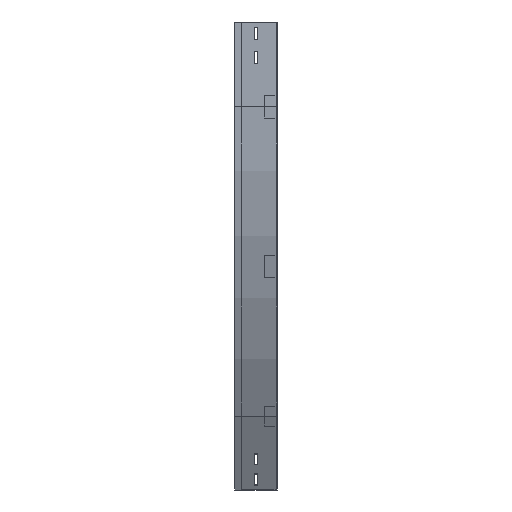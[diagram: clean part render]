
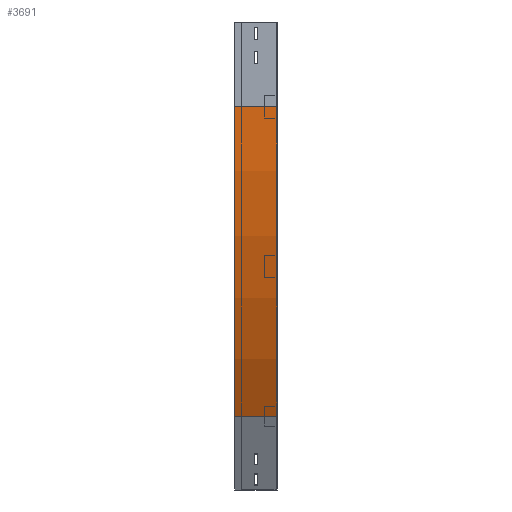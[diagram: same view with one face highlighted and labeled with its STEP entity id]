
A CAD part, left-side view. The second image highlights one B-rep face of the part: STEP entity #3691.
In plain terms, the highlighted cylindrical face has radius 1100 mm (diameter 2200 mm), a partial arc.
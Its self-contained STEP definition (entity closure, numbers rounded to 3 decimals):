
#99 = ORIENTED_EDGE ( 'NONE', *, *, #612, .T. ) ;
#209 = DIRECTION ( 'NONE',  ( -1., 0., 0. ) ) ;
#288 = DIRECTION ( 'NONE',  ( 0., -1., 0. ) ) ;
#316 = DIRECTION ( 'NONE',  ( 0., -1., 0. ) ) ;
#446 = CARTESIAN_POINT ( 'NONE',  ( 147.372, 75., -700. ) ) ;
#484 = DIRECTION ( 'NONE',  ( 0., -1., 0. ) ) ;
#487 = DIRECTION ( 'NONE',  ( 0., -1., 0. ) ) ;
#562 = EDGE_CURVE ( 'NONE', #3136, #2869, #2020, .T. ) ;
#570 = CARTESIAN_POINT ( 'NONE',  ( 0., 0., -150. ) ) ;
#612 = EDGE_CURVE ( 'NONE', #3474, #2869, #3356, .T. ) ;
#667 = EDGE_LOOP ( 'NONE', ( #1631, #2430, #815, #99 ) ) ;
#815 = ORIENTED_EDGE ( 'NONE', *, *, #1408, .T. ) ;
#1390 = LINE ( 'NONE', #3781, #3195 ) ;
#1408 = EDGE_CURVE ( 'NONE', #3730, #3474, #2522, .T. ) ;
#1466 = AXIS2_PLACEMENT_3D ( 'NONE', #2239, #484, #209 ) ;
#1486 = DIRECTION ( 'NONE',  ( 0., 0., -1. ) ) ;
#1523 = VECTOR ( 'NONE', #3313, 1000. ) ;
#1631 = ORIENTED_EDGE ( 'NONE', *, *, #562, .F. ) ;
#1777 = CYLINDRICAL_SURFACE ( 'NONE', #2963, 1100. ) ;
#2020 = CIRCLE ( 'NONE', #2400, 1100. ) ;
#2047 = EDGE_CURVE ( 'NONE', #3730, #3136, #1390, .T. ) ;
#2102 = FACE_OUTER_BOUND ( 'NONE', #667, .T. ) ;
#2131 = CARTESIAN_POINT ( 'NONE',  ( 147.372, 0., -700. ) ) ;
#2239 = CARTESIAN_POINT ( 'NONE',  ( 1100., 75., -150. ) ) ;
#2400 = AXIS2_PLACEMENT_3D ( 'NONE', #2637, #288, #2597 ) ;
#2430 = ORIENTED_EDGE ( 'NONE', *, *, #2047, .F. ) ;
#2522 = CIRCLE ( 'NONE', #1466, 1100. ) ;
#2597 = DIRECTION ( 'NONE',  ( -1., 0., 0. ) ) ;
#2637 = CARTESIAN_POINT ( 'NONE',  ( 1100., 0., -150. ) ) ;
#2747 = CARTESIAN_POINT ( 'NONE',  ( 147.372, 0., -700. ) ) ;
#2869 = VERTEX_POINT ( 'NONE', #2747 ) ;
#2963 = AXIS2_PLACEMENT_3D ( 'NONE', #2981, #316, #1486 ) ;
#2981 = CARTESIAN_POINT ( 'NONE',  ( 1100., 0., -150. ) ) ;
#3136 = VERTEX_POINT ( 'NONE', #570 ) ;
#3195 = VECTOR ( 'NONE', #487, 1000. ) ;
#3313 = DIRECTION ( 'NONE',  ( 0., -1., 0. ) ) ;
#3325 = CARTESIAN_POINT ( 'NONE',  ( 0., 75., -150. ) ) ;
#3356 = LINE ( 'NONE', #2131, #1523 ) ;
#3474 = VERTEX_POINT ( 'NONE', #446 ) ;
#3691 = ADVANCED_FACE ( 'NONE', ( #2102 ), #1777, .T. ) ;
#3730 = VERTEX_POINT ( 'NONE', #3325 ) ;
#3781 = CARTESIAN_POINT ( 'NONE',  ( 0., 0., -150. ) ) ;
